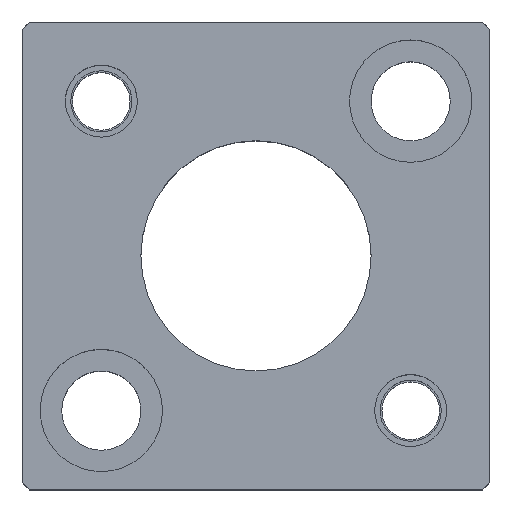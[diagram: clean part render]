
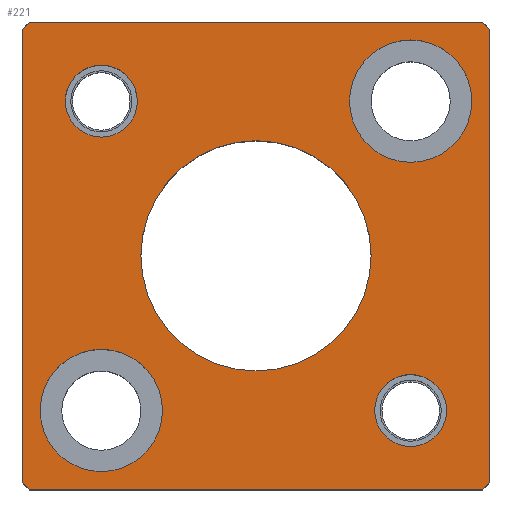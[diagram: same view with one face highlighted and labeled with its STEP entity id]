
A CAD part, top view. The second image highlights one B-rep face of the part: STEP entity #221.
In plain terms, the highlighted planar face has unit normal (0, 0, 1).
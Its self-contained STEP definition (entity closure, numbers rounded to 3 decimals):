
#103=FACE_BOUND('',#329,.T.);
#104=FACE_BOUND('',#330,.T.);
#105=FACE_BOUND('',#331,.T.);
#106=FACE_BOUND('',#332,.T.);
#107=FACE_BOUND('',#333,.T.);
#108=FACE_BOUND('',#334,.T.);
#157=CIRCLE('',#928,8.5);
#159=CIRCLE('',#931,8.5);
#161=CIRCLE('',#935,8.5);
#163=CIRCLE('',#938,8.5);
#165=CIRCLE('',#942,5.);
#166=CIRCLE('',#943,5.);
#167=CIRCLE('',#944,5.);
#168=CIRCLE('',#945,5.);
#169=CIRCLE('',#946,16.);
#170=CIRCLE('',#947,16.);
#221=ADVANCED_FACE('',(#103,#104,#105,#106,#107,#108),#260,.T.);
#260=PLANE('',#948);
#329=EDGE_LOOP('',(#469,#470,#471,#472,#473,#474,#475,#476));
#330=EDGE_LOOP('',(#477,#478));
#331=EDGE_LOOP('',(#479,#480));
#332=EDGE_LOOP('',(#481,#482));
#333=EDGE_LOOP('',(#483,#484));
#334=EDGE_LOOP('',(#485,#486));
#469=ORIENTED_EDGE('',*,*,#683,.T.);
#470=ORIENTED_EDGE('',*,*,#680,.T.);
#471=ORIENTED_EDGE('',*,*,#698,.T.);
#472=ORIENTED_EDGE('',*,*,#695,.T.);
#473=ORIENTED_EDGE('',*,*,#692,.T.);
#474=ORIENTED_EDGE('',*,*,#676,.T.);
#475=ORIENTED_EDGE('',*,*,#673,.T.);
#476=ORIENTED_EDGE('',*,*,#669,.T.);
#477=ORIENTED_EDGE('',*,*,#727,.F.);
#478=ORIENTED_EDGE('',*,*,#728,.F.);
#479=ORIENTED_EDGE('',*,*,#729,.F.);
#480=ORIENTED_EDGE('',*,*,#730,.F.);
#481=ORIENTED_EDGE('',*,*,#725,.F.);
#482=ORIENTED_EDGE('',*,*,#721,.F.);
#483=ORIENTED_EDGE('',*,*,#719,.F.);
#484=ORIENTED_EDGE('',*,*,#715,.F.);
#485=ORIENTED_EDGE('',*,*,#731,.T.);
#486=ORIENTED_EDGE('',*,*,#732,.T.);
#595=VERTEX_POINT('',#1264);
#596=VERTEX_POINT('',#1266);
#599=VERTEX_POINT('',#1274);
#601=VERTEX_POINT('',#1280);
#604=VERTEX_POINT('',#1287);
#605=VERTEX_POINT('',#1289);
#612=VERTEX_POINT('',#1312);
#614=VERTEX_POINT('',#1318);
#625=VERTEX_POINT('',#1357);
#626=VERTEX_POINT('',#1358);
#629=VERTEX_POINT('',#1370);
#630=VERTEX_POINT('',#1371);
#633=VERTEX_POINT('',#1383);
#634=VERTEX_POINT('',#1384);
#635=VERTEX_POINT('',#1387);
#636=VERTEX_POINT('',#1388);
#637=VERTEX_POINT('',#1391);
#638=VERTEX_POINT('',#1392);
#669=EDGE_CURVE('',#596,#595,#781,.T.);
#673=EDGE_CURVE('',#599,#596,#785,.T.);
#676=EDGE_CURVE('',#601,#599,#788,.T.);
#680=EDGE_CURVE('',#605,#604,#792,.T.);
#683=EDGE_CURVE('',#595,#605,#795,.T.);
#692=EDGE_CURVE('',#612,#601,#804,.T.);
#695=EDGE_CURVE('',#614,#612,#807,.T.);
#698=EDGE_CURVE('',#604,#614,#810,.T.);
#715=EDGE_CURVE('',#625,#626,#157,.T.);
#719=EDGE_CURVE('',#626,#625,#159,.T.);
#721=EDGE_CURVE('',#629,#630,#161,.T.);
#725=EDGE_CURVE('',#630,#629,#163,.T.);
#727=EDGE_CURVE('',#633,#634,#165,.T.);
#728=EDGE_CURVE('',#634,#633,#166,.T.);
#729=EDGE_CURVE('',#635,#636,#167,.T.);
#730=EDGE_CURVE('',#636,#635,#168,.T.);
#731=EDGE_CURVE('',#637,#638,#169,.T.);
#732=EDGE_CURVE('',#638,#637,#170,.T.);
#781=LINE('',#1265,#843);
#785=LINE('',#1273,#847);
#788=LINE('',#1279,#850);
#792=LINE('',#1288,#854);
#795=LINE('',#1294,#857);
#804=LINE('',#1311,#866);
#807=LINE('',#1317,#869);
#810=LINE('',#1323,#872);
#843=VECTOR('',#1005,1.);
#847=VECTOR('',#1011,1.);
#850=VECTOR('',#1016,1.);
#854=VECTOR('',#1022,1.);
#857=VECTOR('',#1027,1.);
#866=VECTOR('',#1042,1.);
#869=VECTOR('',#1047,1.);
#872=VECTOR('',#1052,1.);
#928=AXIS2_PLACEMENT_3D('',#1356,#1091,#1092);
#931=AXIS2_PLACEMENT_3D('',#1365,#1099,#1100);
#935=AXIS2_PLACEMENT_3D('',#1369,#1107,#1108);
#938=AXIS2_PLACEMENT_3D('',#1378,#1115,#1116);
#942=AXIS2_PLACEMENT_3D('',#1382,#1123,#1124);
#943=AXIS2_PLACEMENT_3D('',#1385,#1125,#1126);
#944=AXIS2_PLACEMENT_3D('',#1386,#1127,#1128);
#945=AXIS2_PLACEMENT_3D('',#1389,#1129,#1130);
#946=AXIS2_PLACEMENT_3D('',#1390,#1131,#1132);
#947=AXIS2_PLACEMENT_3D('',#1393,#1133,#1134);
#948=AXIS2_PLACEMENT_3D('',#1394,#1135,#1136);
#1005=DIRECTION('',(1.,0.,0.));
#1011=DIRECTION('',(0.707,-0.707,0.));
#1016=DIRECTION('',(0.,-1.,0.));
#1022=DIRECTION('',(0.,1.,0.));
#1027=DIRECTION('',(0.707,0.707,0.));
#1042=DIRECTION('',(-0.707,-0.707,0.));
#1047=DIRECTION('',(-1.,0.,0.));
#1052=DIRECTION('',(-0.707,0.707,0.));
#1091=DIRECTION('',(0.,0.,1.));
#1092=DIRECTION('',(-1.,0.,0.));
#1099=DIRECTION('',(0.,0.,1.));
#1100=DIRECTION('',(1.,0.,0.));
#1107=DIRECTION('',(0.,0.,1.));
#1108=DIRECTION('',(-1.,0.,0.));
#1115=DIRECTION('',(0.,0.,1.));
#1116=DIRECTION('',(1.,0.,0.));
#1123=DIRECTION('',(0.,0.,1.));
#1124=DIRECTION('',(1.,0.,0.));
#1125=DIRECTION('',(0.,0.,1.));
#1126=DIRECTION('',(-1.,0.,0.));
#1127=DIRECTION('',(0.,0.,1.));
#1128=DIRECTION('',(1.,0.,0.));
#1129=DIRECTION('',(0.,0.,1.));
#1130=DIRECTION('',(-1.,0.,0.));
#1131=DIRECTION('',(0.,0.,-1.));
#1132=DIRECTION('',(-1.,0.,0.));
#1133=DIRECTION('',(0.,0.,-1.));
#1134=DIRECTION('',(1.,0.,0.));
#1135=DIRECTION('',(0.,0.,1.));
#1136=DIRECTION('',(-1.,0.,0.));
#1264=CARTESIAN_POINT('',(31.5,-32.5,30.));
#1265=CARTESIAN_POINT('',(-31.5,-32.5,30.));
#1266=CARTESIAN_POINT('',(-31.5,-32.5,30.));
#1273=CARTESIAN_POINT('',(-31.5,-32.5,30.));
#1274=CARTESIAN_POINT('',(-32.5,-31.5,30.));
#1279=CARTESIAN_POINT('',(-32.5,31.5,30.));
#1280=CARTESIAN_POINT('',(-32.5,31.5,30.));
#1287=CARTESIAN_POINT('',(32.5,31.5,30.));
#1288=CARTESIAN_POINT('',(32.5,31.5,30.));
#1289=CARTESIAN_POINT('',(32.5,-31.5,30.));
#1294=CARTESIAN_POINT('',(32.5,-31.5,30.));
#1311=CARTESIAN_POINT('',(-32.5,31.5,30.));
#1312=CARTESIAN_POINT('',(-31.5,32.5,30.));
#1317=CARTESIAN_POINT('',(-31.5,32.5,30.));
#1318=CARTESIAN_POINT('',(31.5,32.5,30.));
#1323=CARTESIAN_POINT('',(31.5,32.5,30.));
#1356=CARTESIAN_POINT('',(-21.5,-21.5,30.));
#1357=CARTESIAN_POINT('',(-21.5,-30.,30.));
#1358=CARTESIAN_POINT('',(-21.5,-13.,30.));
#1365=CARTESIAN_POINT('',(-21.5,-21.5,30.));
#1369=CARTESIAN_POINT('',(21.5,21.5,30.));
#1370=CARTESIAN_POINT('',(21.5,13.,30.));
#1371=CARTESIAN_POINT('',(21.5,30.,30.));
#1378=CARTESIAN_POINT('',(21.5,21.5,30.));
#1382=CARTESIAN_POINT('',(-21.5,21.5,30.));
#1383=CARTESIAN_POINT('',(-21.5,26.5,30.));
#1384=CARTESIAN_POINT('',(-21.5,16.5,30.));
#1385=CARTESIAN_POINT('',(-21.5,21.5,30.));
#1386=CARTESIAN_POINT('',(21.5,-21.5,30.));
#1387=CARTESIAN_POINT('',(21.5,-16.5,30.));
#1388=CARTESIAN_POINT('',(21.5,-26.5,30.));
#1389=CARTESIAN_POINT('',(21.5,-21.5,30.));
#1390=CARTESIAN_POINT('',(0.,0.,30.));
#1391=CARTESIAN_POINT('',(0.,16.,30.));
#1392=CARTESIAN_POINT('',(0.,-16.,30.));
#1393=CARTESIAN_POINT('',(0.,0.,30.));
#1394=CARTESIAN_POINT('',(31.5,-32.5,30.));
